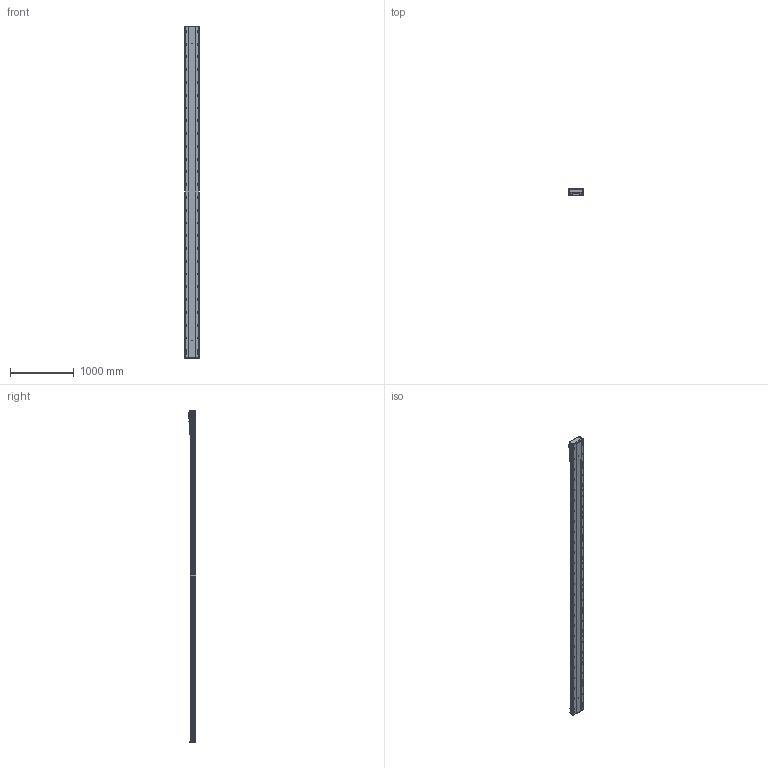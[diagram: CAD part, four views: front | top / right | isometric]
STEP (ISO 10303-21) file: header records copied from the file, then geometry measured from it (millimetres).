
FILE_DESCRIPTION (( 'STEP AP203' ), '1' );
FILE_NAME ('BEH22-A-M2-4750-L1-¦Õ22-PCD100-M6-C3.STEP', '2022-06-21T06:37:06', ( 'CXY' ), ( 'BT' ), 'SwSTEP 2.0', 'SolidWorks 2016', '' );
FILE_SCHEMA (( 'CONFIG_CONTROL_DESIGN' ));
Products named in the file (12): BEH22-A-M2-4750-L1-耳22-PCD100-M6-C3; BEH22-07-PCD100-80-M6; _G-M6; 萇儂階踡輸; FS-01-10（10毫米）; FS-25-6.66-M2-H22K6; BEH22-04-01_L; PM-T65; BTH22-07-DZ; FS-02-BTH22; BEH22-04-F; BEH22-B-01-XX-2
Assembly tree (18 placements, depth 3):
  BEH22-A-M2-4750-L1-耳22-PCD100-M6-C3
    BEH22-B-01-XX-2
    BTH22-07-DZ  x2
    PM-T65  x2
    BEH22-04-01_L
      BEH22-04-F
      萇儂階踡輸
      _G-M6  x3
      FS-02-BTH22
      FS-01-10（10毫米）  x4
      BEH22-07-PCD100-80-M6
      FS-25-6.66-M2-H22K6
Bounding box: 247.7 x 111 x 5198 mm (x, y, z)
Volume: 53034390.1 mm3; surface area: 5108244.4 mm2
Topology: 21 solids, 21 shells, 2922 faces, 8818 edges, 5758 vertices
Faces by surface type: cylinder 1608, plane 1022, cone 233, bspline 37, torus 22
Entity records: 492418 total; most frequent: CARTESIAN_POINT 424039, ORIENTED_EDGE 15456, DIRECTION 12560, EDGE_CURVE 7728, VERTEX_POINT 5118, AXIS2_PLACEMENT_3D 4566, VECTOR 3428, LINE 3428
